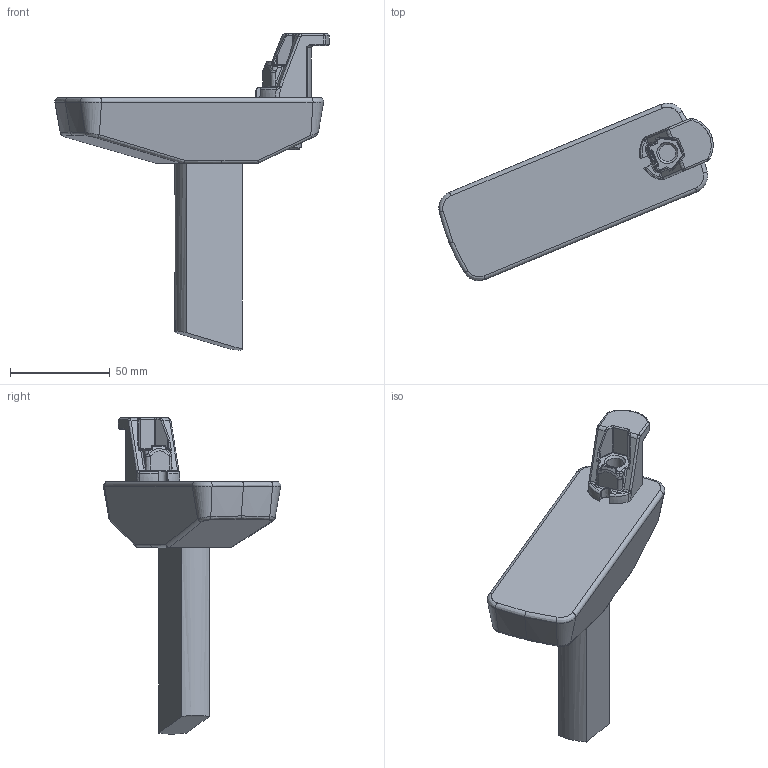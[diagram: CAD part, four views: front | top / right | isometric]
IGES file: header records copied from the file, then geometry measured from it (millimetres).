
Start section: ZWSOFT
Global section: file name: TW28HO.igs; native system: ZW3D; preprocessor: 1.0; author: ZW3D; organization: ZWSOFT; date: 140410.130113; units: millimetre
Bounding box: 137.19 x 88.71 x 158.14 mm (x, y, z)
Surface area: 33984.7 mm2 (no closed solid volume)
Topology: 0 solids, 0 shells, 204 faces, 977 edges, 963 vertices
Faces by surface type: bspline 204
